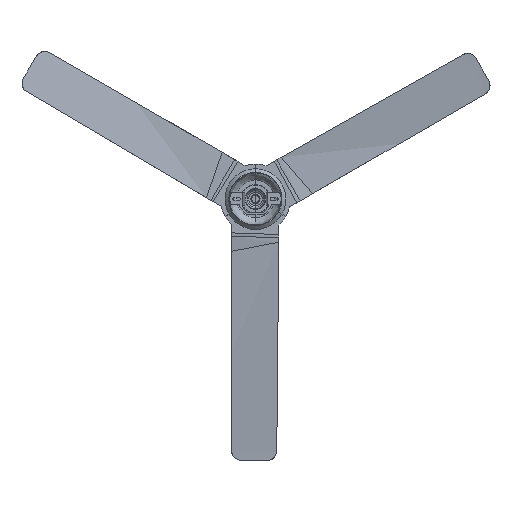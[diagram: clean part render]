
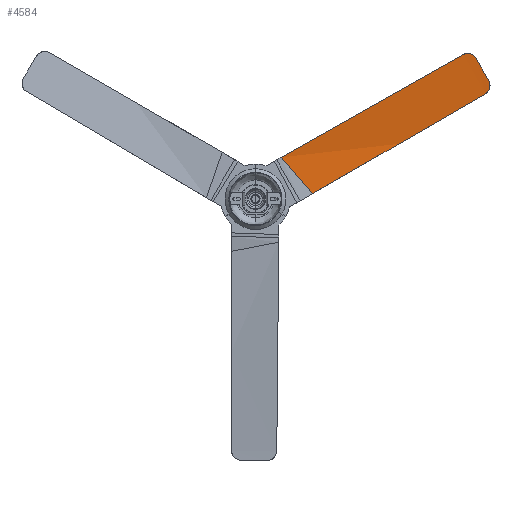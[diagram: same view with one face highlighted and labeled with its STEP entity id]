
A CAD part, top view. The second image highlights one B-rep face of the part: STEP entity #4584.
In plain terms, the highlighted free-form (B-spline) face has degree [3, 1] with [6, 2] control points.
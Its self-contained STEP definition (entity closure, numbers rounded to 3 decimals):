
#4584=ADVANCED_FACE('',(#4927),#12604,.T.);
#4927=FACE_OUTER_BOUND('',#5270,.T.);
#5270=EDGE_LOOP('',(#5768,#5769,#5770,#5771,#5772,#5773));
#5768=ORIENTED_EDGE('',*,*,#7614,.T.);
#5769=ORIENTED_EDGE('',*,*,#7615,.T.);
#5770=ORIENTED_EDGE('',*,*,#7616,.T.);
#5771=ORIENTED_EDGE('',*,*,#7617,.T.);
#5772=ORIENTED_EDGE('',*,*,#7618,.T.);
#5773=ORIENTED_EDGE('',*,*,#7619,.T.);
#7614=EDGE_CURVE('',#10936,#10937,#9415,.T.);
#7615=EDGE_CURVE('',#10937,#10938,#9416,.T.);
#7616=EDGE_CURVE('',#10938,#10939,#9417,.T.);
#7617=EDGE_CURVE('',#10939,#10940,#9418,.T.);
#7618=EDGE_CURVE('',#10940,#10941,#9419,.T.);
#7619=EDGE_CURVE('',#10941,#10936,#9420,.T.);
#9415=B_SPLINE_CURVE_WITH_KNOTS('',1,(#16485,#16486),.UNSPECIFIED.,.F.,
 .F.,(2,2),(0.,119.505),.UNSPECIFIED.);
#9416=B_SPLINE_CURVE_WITH_KNOTS('',3,(#16487,#16488,#16489,#16490,#16491,
#16492,#16493,#16494,#16495,#16496,#16497,#16498,#16499,#16500,#16501,#16502,
#16503,#16504,#16505),.UNSPECIFIED.,.F.,.F.,(4,3,3,3,3,3,4),(0.,72.975,
152.356,248.414,334.537,422.643,496.831),
 .UNSPECIFIED.);
#9417=B_SPLINE_CURVE_WITH_KNOTS('',3,(#16506,#16507,#16508,#16509,#16510,
#16511,#16512,#16513,#16514,#16515),.UNSPECIFIED.,.F.,.F.,(4,2,2,2,4),(0.,
9.898,19.216,28.878,38.429),
 .UNSPECIFIED.);
#9418=B_SPLINE_CURVE_WITH_KNOTS('',3,(#16516,#16517,#16518,#16519,#16520,
#16521),.UNSPECIFIED.,.F.,.F.,(4,2,4),(0.,31.713,63.426),
 .UNSPECIFIED.);
#9419=B_SPLINE_CURVE_WITH_KNOTS('',3,(#16522,#16523,#16524,#16525,#16526,
#16527,#16528,#16529,#16530,#16531),.UNSPECIFIED.,.F.,.F.,(4,2,2,2,4),(0.,
9.02,18.45,27.437,36.898),
 .UNSPECIFIED.);
#9420=B_SPLINE_CURVE_WITH_KNOTS('',3,(#16532,#16533,#16534,#16535,#16536,
#16537),.UNSPECIFIED.,.F.,.F.,(4,2,4),(0.,260.471,520.938),
 .UNSPECIFIED.);
#10936=VERTEX_POINT('',#16479);
#10937=VERTEX_POINT('',#16480);
#10938=VERTEX_POINT('',#16481);
#10939=VERTEX_POINT('',#16482);
#10940=VERTEX_POINT('',#16483);
#10941=VERTEX_POINT('',#16484);
#12604=B_SPLINE_SURFACE_WITH_KNOTS('',3,1,((#16467,#16468),(#16469,#16470),
(#16471,#16472),(#16473,#16474),(#16475,#16476),(#16477,#16478)),
 .UNSPECIFIED.,.F.,.F.,.F.,(4,1,1,4),(2,2),(0.,184.784,
369.567,542.804),(0.,119.831),.UNSPECIFIED.);
#16467=CARTESIAN_POINT('',(142.356,-13.428,223.07));
#16468=CARTESIAN_POINT('',(63.943,-103.884,217.724));
#16469=CARTESIAN_POINT('',(193.437,-42.919,227.801));
#16470=CARTESIAN_POINT('',(117.27,-134.672,218.593));
#16471=CARTESIAN_POINT('',(295.784,-102.009,234.814));
#16472=CARTESIAN_POINT('',(223.945,-196.261,219.539));
#16473=CARTESIAN_POINT('',(446.372,-188.952,237.897));
#16474=CARTESIAN_POINT('',(380.644,-286.731,218.603));
#16475=CARTESIAN_POINT('',(545.689,-246.292,235.315));
#16476=CARTESIAN_POINT('',(483.988,-346.397,216.5));
#16477=CARTESIAN_POINT('',(593.704,-274.014,232.987));
#16478=CARTESIAN_POINT('',(533.984,-375.262,215.134));
#16479=CARTESIAN_POINT('',(63.943,-103.884,217.724));
#16480=CARTESIAN_POINT('',(142.143,-13.674,223.055));
#16481=CARTESIAN_POINT('',(572.084,-261.839,233.915));
#16482=CARTESIAN_POINT('',(580.222,-295.175,229.212));
#16483=CARTESIAN_POINT('',(549.105,-349.61,219.656));
#16484=CARTESIAN_POINT('',(517.506,-360.045,216.401));
#16485=CARTESIAN_POINT('',(63.943,-103.884,217.724));
#16486=CARTESIAN_POINT('',(142.143,-13.674,223.055));
#16487=CARTESIAN_POINT('',(142.143,-13.674,223.055));
#16488=CARTESIAN_POINT('',(163.178,-25.75,224.998));
#16489=CARTESIAN_POINT('',(184.215,-37.836,226.736));
#16490=CARTESIAN_POINT('',(205.256,-49.934,228.267));
#16491=CARTESIAN_POINT('',(228.15,-63.098,229.934));
#16492=CARTESIAN_POINT('',(251.049,-76.276,231.356));
#16493=CARTESIAN_POINT('',(273.956,-89.47,232.533));
#16494=CARTESIAN_POINT('',(301.665,-105.43,233.957));
#16495=CARTESIAN_POINT('',(329.385,-121.414,235.022));
#16496=CARTESIAN_POINT('',(357.121,-137.424,235.725));
#16497=CARTESIAN_POINT('',(381.989,-151.777,236.355));
#16498=CARTESIAN_POINT('',(406.842,-166.136,236.694));
#16499=CARTESIAN_POINT('',(431.686,-180.503,236.742));
#16500=CARTESIAN_POINT('',(457.11,-195.206,236.791));
#16501=CARTESIAN_POINT('',(482.524,-209.917,236.536));
#16502=CARTESIAN_POINT('',(507.933,-224.639,235.976));
#16503=CARTESIAN_POINT('',(529.319,-237.031,235.505));
#16504=CARTESIAN_POINT('',(550.702,-249.43,234.818));
#16505=CARTESIAN_POINT('',(572.084,-261.839,233.915));
#16506=CARTESIAN_POINT('',(572.084,-261.839,233.915));
#16507=CARTESIAN_POINT('',(574.84,-263.63,233.77));
#16508=CARTESIAN_POINT('',(577.221,-265.932,233.524));
#16509=CARTESIAN_POINT('',(580.853,-271.146,232.888));
#16510=CARTESIAN_POINT('',(582.132,-273.971,232.512));
#16511=CARTESIAN_POINT('',(583.619,-280.04,231.651));
#16512=CARTESIAN_POINT('',(583.772,-283.24,231.171));
#16513=CARTESIAN_POINT('',(582.855,-289.482,230.185));
#16514=CARTESIAN_POINT('',(581.807,-292.467,229.689));
#16515=CARTESIAN_POINT('',(580.222,-295.175,229.212));
#16516=CARTESIAN_POINT('',(580.222,-295.175,229.212));
#16517=CARTESIAN_POINT('',(575.036,-304.247,227.618));
#16518=CARTESIAN_POINT('',(569.85,-313.32,226.025));
#16519=CARTESIAN_POINT('',(559.478,-331.465,222.84));
#16520=CARTESIAN_POINT('',(554.291,-340.538,221.248));
#16521=CARTESIAN_POINT('',(549.105,-349.61,219.656));
#16522=CARTESIAN_POINT('',(549.105,-349.61,219.656));
#16523=CARTESIAN_POINT('',(547.667,-352.202,219.204));
#16524=CARTESIAN_POINT('',(545.763,-354.508,218.77));
#16525=CARTESIAN_POINT('',(541.105,-358.413,217.955));
#16526=CARTESIAN_POINT('',(538.36,-359.938,217.586));
#16527=CARTESIAN_POINT('',(532.573,-361.844,216.993));
#16528=CARTESIAN_POINT('',(529.599,-362.259,216.767));
#16529=CARTESIAN_POINT('',(523.479,-362.019,216.457));
#16530=CARTESIAN_POINT('',(520.387,-361.307,216.384));
#16531=CARTESIAN_POINT('',(517.506,-360.045,216.401));
#16532=CARTESIAN_POINT('',(517.506,-360.045,216.401));
#16533=CARTESIAN_POINT('',(441.926,-317.36,218.246));
#16534=CARTESIAN_POINT('',(366.33,-274.665,219.207));
#16535=CARTESIAN_POINT('',(215.133,-189.272,219.576));
#16536=CARTESIAN_POINT('',(139.529,-146.573,218.984));
#16537=CARTESIAN_POINT('',(63.943,-103.884,217.724));
